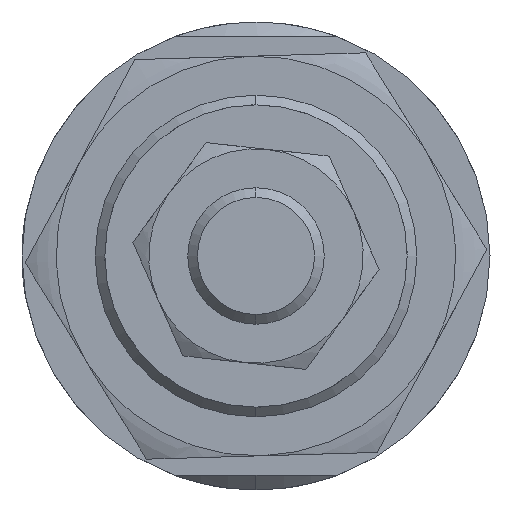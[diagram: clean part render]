
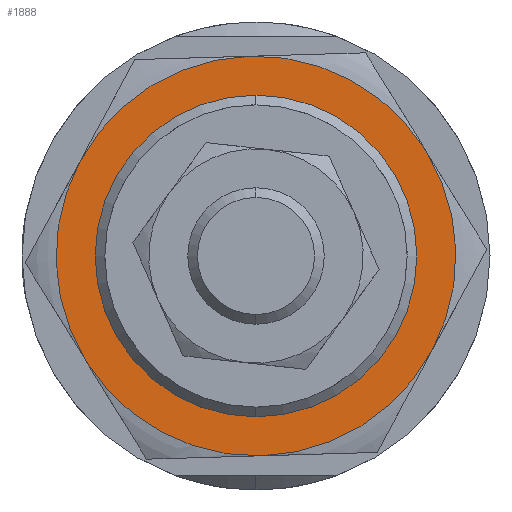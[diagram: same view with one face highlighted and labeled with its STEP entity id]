
A CAD part, left-side view. The second image highlights one B-rep face of the part: STEP entity #1888.
In plain terms, the highlighted planar face has unit normal (-1, 0, 0) as drawn and (0, 0, -1) by its records, which use the part's own axes.
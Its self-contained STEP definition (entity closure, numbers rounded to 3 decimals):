
#11 = EDGE_CURVE ( 'NONE', #3357, #280, #1054, .T. ) ;
#44 = DIRECTION ( 'NONE',  ( 1., 0., 0. ) ) ;
#70 = EDGE_CURVE ( 'NONE', #1574, #1338, #2483, .T. ) ;
#154 = CARTESIAN_POINT ( 'NONE',  ( 10.25, -17.754, -5.5 ) ) ;
#187 = EDGE_CURVE ( 'NONE', #280, #3357, #585, .T. ) ;
#207 = AXIS2_PLACEMENT_3D ( 'NONE', #3306, #3419, #3231 ) ;
#224 = VERTEX_POINT ( 'NONE', #2457 ) ;
#240 = ORIENTED_EDGE ( 'NONE', *, *, #265, .F. ) ;
#246 = DIRECTION ( 'NONE',  ( 0., 0., 1. ) ) ;
#265 = EDGE_CURVE ( 'NONE', #1935, #224, #2901, .T. ) ;
#280 = VERTEX_POINT ( 'NONE', #924 ) ;
#281 = AXIS2_PLACEMENT_3D ( 'NONE', #3104, #3449, #2057 ) ;
#319 = FACE_BOUND ( 'NONE', #1946, .T. ) ;
#351 = EDGE_CURVE ( 'NONE', #1608, #1935, #2536, .T. ) ;
#585 = CIRCLE ( 'NONE', #207, 15.5 ) ;
#598 = ORIENTED_EDGE ( 'NONE', *, *, #2772, .F. ) ;
#605 = CARTESIAN_POINT ( 'NONE',  ( 0., 0., -5.5 ) ) ;
#660 = DIRECTION ( 'NONE',  ( 0., 0., 1. ) ) ;
#723 = AXIS2_PLACEMENT_3D ( 'NONE', #605, #2026, #2153 ) ;
#782 = ORIENTED_EDGE ( 'NONE', *, *, #351, .F. ) ;
#903 = VERTEX_POINT ( 'NONE', #154 ) ;
#917 = EDGE_CURVE ( 'NONE', #1338, #903, #3555, .T. ) ;
#924 = CARTESIAN_POINT ( 'NONE',  ( -15.5, 0., -5.5 ) ) ;
#962 = ORIENTED_EDGE ( 'NONE', *, *, #187, .T. ) ;
#1054 = CIRCLE ( 'NONE', #3462, 15.5 ) ;
#1118 = CARTESIAN_POINT ( 'NONE',  ( 0., 0., -5.5 ) ) ;
#1234 = FACE_OUTER_BOUND ( 'NONE', #2992, .T. ) ;
#1338 = VERTEX_POINT ( 'NONE', #2662 ) ;
#1549 = DIRECTION ( 'NONE',  ( 0., 0., 1. ) ) ;
#1574 = VERTEX_POINT ( 'NONE', #3745 ) ;
#1608 = VERTEX_POINT ( 'NONE', #3252 ) ;
#1610 = CIRCLE ( 'NONE', #2543, 20.5 ) ;
#1672 = DIRECTION ( 'NONE',  ( 0., 0., 1. ) ) ;
#1725 = DIRECTION ( 'NONE',  ( 1., 0., 0. ) ) ;
#1803 = AXIS2_PLACEMENT_3D ( 'NONE', #3177, #3233, #3722 ) ;
#1818 = AXIS2_PLACEMENT_3D ( 'NONE', #3131, #660, #3368 ) ;
#1850 = DIRECTION ( 'NONE',  ( 1., 0., 0. ) ) ;
#1881 = CIRCLE ( 'NONE', #3346, 20.5 ) ;
#1888 = ADVANCED_FACE ( 'NONE', ( #319, #1234 ), #3013, .F. ) ;
#1901 = CARTESIAN_POINT ( 'NONE',  ( 0., 0., -5.5 ) ) ;
#1905 = CARTESIAN_POINT ( 'NONE',  ( 0., 0., -5.5 ) ) ;
#1935 = VERTEX_POINT ( 'NONE', #1973 ) ;
#1946 = EDGE_LOOP ( 'NONE', ( #3316, #962 ) ) ;
#1956 = ORIENTED_EDGE ( 'NONE', *, *, #3401, .F. ) ;
#1973 = CARTESIAN_POINT ( 'NONE',  ( 10.25, 17.754, -5.5 ) ) ;
#2026 = DIRECTION ( 'NONE',  ( 0., 0., 1. ) ) ;
#2036 = ORIENTED_EDGE ( 'NONE', *, *, #70, .F. ) ;
#2057 = DIRECTION ( 'NONE',  ( 1., 0., 0. ) ) ;
#2129 = ORIENTED_EDGE ( 'NONE', *, *, #917, .F. ) ;
#2153 = DIRECTION ( 'NONE',  ( 1., 0., 0. ) ) ;
#2457 = CARTESIAN_POINT ( 'NONE',  ( -10.25, 17.754, -5.5 ) ) ;
#2483 = CIRCLE ( 'NONE', #1803, 20.5 ) ;
#2536 = CIRCLE ( 'NONE', #1818, 20.5 ) ;
#2543 = AXIS2_PLACEMENT_3D ( 'NONE', #1905, #1672, #44 ) ;
#2643 = DIRECTION ( 'NONE',  ( 1., 0., 0. ) ) ;
#2662 = CARTESIAN_POINT ( 'NONE',  ( -10.25, -17.754, -5.5 ) ) ;
#2772 = EDGE_CURVE ( 'NONE', #903, #1608, #1881, .T. ) ;
#2901 = CIRCLE ( 'NONE', #723, 20.5 ) ;
#2992 = EDGE_LOOP ( 'NONE', ( #782, #598, #2129, #2036, #1956, #240 ) ) ;
#3013 = PLANE ( 'NONE',  #3319 ) ;
#3070 = DIRECTION ( 'NONE',  ( 0., 0., 1. ) ) ;
#3104 = CARTESIAN_POINT ( 'NONE',  ( 0., 0., -5.5 ) ) ;
#3131 = CARTESIAN_POINT ( 'NONE',  ( 0., 0., -5.5 ) ) ;
#3177 = CARTESIAN_POINT ( 'NONE',  ( 0., 0., -5.5 ) ) ;
#3183 = CARTESIAN_POINT ( 'NONE',  ( 0., 0., -5.5 ) ) ;
#3231 = DIRECTION ( 'NONE',  ( 1., 0., 0. ) ) ;
#3233 = DIRECTION ( 'NONE',  ( 0., 0., 1. ) ) ;
#3252 = CARTESIAN_POINT ( 'NONE',  ( 20.5, 0., -5.5 ) ) ;
#3306 = CARTESIAN_POINT ( 'NONE',  ( 0., 0., -5.5 ) ) ;
#3316 = ORIENTED_EDGE ( 'NONE', *, *, #11, .T. ) ;
#3319 = AXIS2_PLACEMENT_3D ( 'NONE', #1118, #1549, #2643 ) ;
#3346 = AXIS2_PLACEMENT_3D ( 'NONE', #3183, #3070, #1850 ) ;
#3357 = VERTEX_POINT ( 'NONE', #3477 ) ;
#3368 = DIRECTION ( 'NONE',  ( 1., 0., 0. ) ) ;
#3401 = EDGE_CURVE ( 'NONE', #224, #1574, #1610, .T. ) ;
#3419 = DIRECTION ( 'NONE',  ( 0., 0., 1. ) ) ;
#3449 = DIRECTION ( 'NONE',  ( 0., 0., 1. ) ) ;
#3462 = AXIS2_PLACEMENT_3D ( 'NONE', #1901, #246, #1725 ) ;
#3477 = CARTESIAN_POINT ( 'NONE',  ( 15.5, 0., -5.5 ) ) ;
#3555 = CIRCLE ( 'NONE', #281, 20.5 ) ;
#3722 = DIRECTION ( 'NONE',  ( 1., 0., 0. ) ) ;
#3745 = CARTESIAN_POINT ( 'NONE',  ( -20.5, 0., -5.5 ) ) ;
